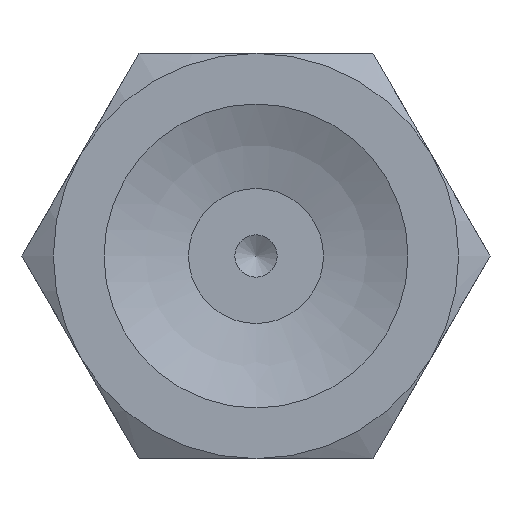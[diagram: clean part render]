
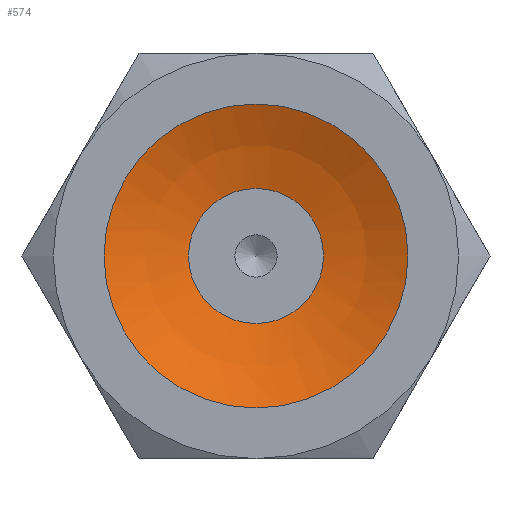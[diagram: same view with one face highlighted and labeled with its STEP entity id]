
A CAD part, front view. The second image highlights one B-rep face of the part: STEP entity #574.
In plain terms, the highlighted spherical face has radius 10.203 mm.
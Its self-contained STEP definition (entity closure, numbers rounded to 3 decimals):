
#574=ADVANCED_FACE('',(#870,#871),#872,.F.);
#870=FACE_OUTER_BOUND('',#1185,.T.);
#871=FACE_OUTER_BOUND('',#1186,.T.);
#872=SPHERICAL_SURFACE('',#1187,10.203);
#1185=EDGE_LOOP('',(#2003));
#1186=EDGE_LOOP('',(#2004));
#1187=AXIS2_PLACEMENT_3D('',#2005,#2006,#2007);
#2003=ORIENTED_EDGE('',*,*,#2274,.T.);
#2004=ORIENTED_EDGE('',*,*,#2265,.F.);
#2005=CARTESIAN_POINT('',(0.,-9.157,0.));
#2006=DIRECTION('',(0.0,-1.0,0.));
#2007=DIRECTION('',(1.0,0.0,0.0));
#2265=EDGE_CURVE('',#2631,#2631,#2632,.T.);
#2274=EDGE_CURVE('',#2649,#2649,#2650,.T.);
#2631=VERTEX_POINT('',#3613);
#2632=CIRCLE('',#3614,2.);
#2649=VERTEX_POINT('',#3631);
#2650=CIRCLE('',#3632,4.5);
#3613=CARTESIAN_POINT('',(0.0,0.848,-2.));
#3614=AXIS2_PLACEMENT_3D('',#3934,#3935,#3936);
#3631=CARTESIAN_POINT('',(0.0,0.,-4.5));
#3632=AXIS2_PLACEMENT_3D('',#3961,#3962,#3963);
#3934=CARTESIAN_POINT('',(0.0,0.848,0.0));
#3935=DIRECTION('',(0.0,-1.0,0.));
#3936=DIRECTION('',(0.0,0.,-1.0));
#3961=CARTESIAN_POINT('',(0.0,0.,0.0));
#3962=DIRECTION('',(0.0,-1.0,0.));
#3963=DIRECTION('',(0.0,0.,-1.0));
